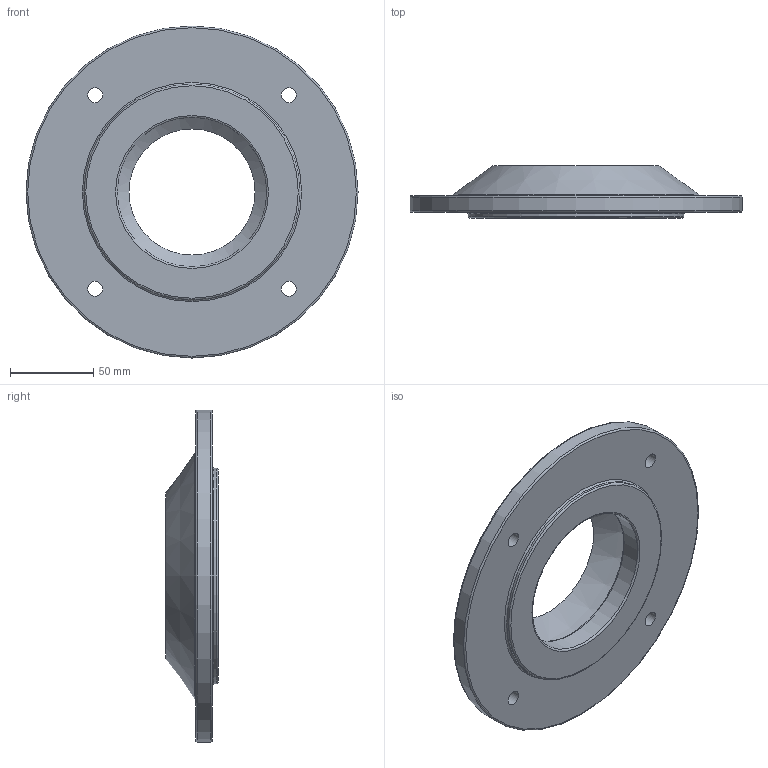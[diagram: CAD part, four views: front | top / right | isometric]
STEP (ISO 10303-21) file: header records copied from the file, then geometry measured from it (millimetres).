
FILE_DESCRIPTION((''),'2;1');
FILE_NAME('D:\PAWEŁ\ZLECENIA\DualSystem\001 Modele\DKAB40_\DK_40_STEP\AF_F_40.stp','2011-11-27T15:09:17',('Pawe'),(''),'Autodesk Inventor 2009','Autodesk Inventor 2009','');
FILE_SCHEMA(('AUTOMOTIVE_DESIGN { 1 0 10303 214 1 1 1 1 }'));
Length unit declared in the file: millimetre
Products named in the file (1): AF_F_40
Bounding box: 200 x 31.5 x 200 mm (x, y, z)
Volume: 348553.8 mm3; surface area: 81074.5 mm2
Topology: 1 solids, 1 shells, 21 faces, 45 edges, 29 vertices
Faces by surface type: bspline 6, plane 5, torus 5, cylinder 3, cone 2
Full cylindrical faces by diameter (mm): 90 x1, 130 x1, 200 x1
Entity records: 624 total; most frequent: CARTESIAN_POINT 210, DIRECTION 82, ORIENTED_EDGE 50, EDGE_LOOP 50, AXIS2_PLACEMENT_3D 41, FACE_BOUND 29, VERTEX_POINT 25, CIRCLE 25
